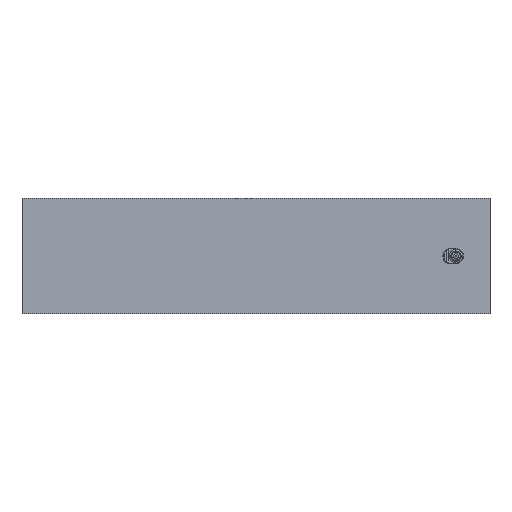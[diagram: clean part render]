
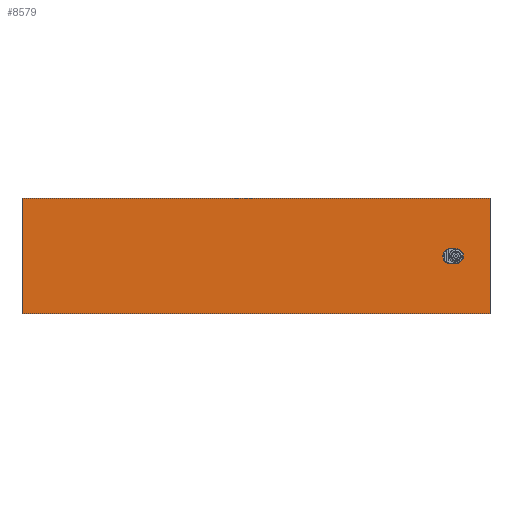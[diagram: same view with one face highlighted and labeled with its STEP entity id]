
A CAD part, top view. The second image highlights one B-rep face of the part: STEP entity #8579.
In plain terms, the highlighted planar face has unit normal (0, 0, 1).
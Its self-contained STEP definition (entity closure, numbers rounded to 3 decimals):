
#390 = VERTEX_POINT ( 'NONE', #3513 ) ;
#646 = VECTOR ( 'NONE', #4071, 1000. ) ;
#730 = ORIENTED_EDGE ( 'NONE', *, *, #6836, .F. ) ;
#1121 = EDGE_CURVE ( 'NONE', #4031, #9419, #7097, .T. ) ;
#1132 = LINE ( 'NONE', #4255, #7204 ) ;
#1312 = VERTEX_POINT ( 'NONE', #7052 ) ;
#1313 = CARTESIAN_POINT ( 'NONE',  ( 413.88, 53.603, 998.163 ) ) ;
#1474 = DIRECTION ( 'NONE',  ( 0., -1., 0. ) ) ;
#1717 = CARTESIAN_POINT ( 'NONE',  ( 397.88, 69.603, 998.163 ) ) ;
#1771 = CIRCLE ( 'NONE', #8633, 1. ) ;
#1847 = VERTEX_POINT ( 'NONE', #9689 ) ;
#2151 = EDGE_CURVE ( 'NONE', #1312, #390, #1132, .T. ) ;
#2449 = VERTEX_POINT ( 'NONE', #3068 ) ;
#2468 = CARTESIAN_POINT ( 'NONE',  ( -27.27, 192.953, 998.163 ) ) ;
#2635 = VECTOR ( 'NONE', #1474, 1000. ) ;
#2958 = VERTEX_POINT ( 'NONE', #10435 ) ;
#2992 = CARTESIAN_POINT ( 'NONE',  ( 397.88, 85.603, 998.163 ) ) ;
#3034 = CARTESIAN_POINT ( 'NONE',  ( -524.77, 69.953, 998.163 ) ) ;
#3064 = CIRCLE ( 'NONE', #4166, 16. ) ;
#3068 = CARTESIAN_POINT ( 'NONE',  ( 381.614, 85.024, 998.163 ) ) ;
#3081 = EDGE_CURVE ( 'NONE', #2449, #11362, #1771, .T. ) ;
#3202 = CARTESIAN_POINT ( 'NONE',  ( 381.88, 84.06, 998.163 ) ) ;
#3214 = CARTESIAN_POINT ( 'NONE',  ( 397.88, 53.603, 998.163 ) ) ;
#3373 = ORIENTED_EDGE ( 'NONE', *, *, #10447, .T. ) ;
#3438 = DIRECTION ( 'NONE',  ( 0., 1., 0. ) ) ;
#3458 = DIRECTION ( 'NONE',  ( -1., 0., 0. ) ) ;
#3513 = CARTESIAN_POINT ( 'NONE',  ( -524.77, -53.047, 998.163 ) ) ;
#3539 = CARTESIAN_POINT ( 'NONE',  ( 238.88, -809.397, 998.163 ) ) ;
#3590 = AXIS2_PLACEMENT_3D ( 'NONE', #1717, #10187, #12602 ) ;
#3785 = CARTESIAN_POINT ( 'NONE',  ( 470.23, 192.953, 998.163 ) ) ;
#3851 = EDGE_CURVE ( 'NONE', #6666, #13516, #11936, .T. ) ;
#3927 = EDGE_CURVE ( 'NONE', #9419, #1312, #12351, .T. ) ;
#4005 = LINE ( 'NONE', #3034, #12390 ) ;
#4031 = VERTEX_POINT ( 'NONE', #10684 ) ;
#4071 = DIRECTION ( 'NONE',  ( 1., 0., 0. ) ) ;
#4166 = AXIS2_PLACEMENT_3D ( 'NONE', #12294, #7020, #7851 ) ;
#4247 = CIRCLE ( 'NONE', #3590, 16. ) ;
#4255 = CARTESIAN_POINT ( 'NONE',  ( -27.27, -53.047, 998.163 ) ) ;
#4270 = EDGE_CURVE ( 'NONE', #390, #4031, #4005, .T. ) ;
#4315 = DIRECTION ( 'NONE',  ( 0., 1., 0. ) ) ;
#4336 = EDGE_CURVE ( 'NONE', #1847, #11162, #11573, .T. ) ;
#4800 = DIRECTION ( 'NONE',  ( 0., 1., 0. ) ) ;
#5328 = CARTESIAN_POINT ( 'NONE',  ( 380.88, 53.603, 998.163 ) ) ;
#5367 = CARTESIAN_POINT ( 'NONE',  ( 385.88, 69.603, 998.163 ) ) ;
#5373 = DIRECTION ( 'NONE',  ( -1., 0., 0. ) ) ;
#5624 = CARTESIAN_POINT ( 'NONE',  ( 380.88, 55.146, 998.163 ) ) ;
#5945 = CIRCLE ( 'NONE', #11041, 16. ) ;
#6130 = VERTEX_POINT ( 'NONE', #5624 ) ;
#6270 = ORIENTED_EDGE ( 'NONE', *, *, #13287, .T. ) ;
#6407 = DIRECTION ( 'NONE',  ( 0., -1., 0. ) ) ;
#6666 = VERTEX_POINT ( 'NONE', #3214 ) ;
#6672 = FACE_BOUND ( 'NONE', #8786, .T. ) ;
#6729 = AXIS2_PLACEMENT_3D ( 'NONE', #11273, #11133, #9039 ) ;
#6836 = EDGE_CURVE ( 'NONE', #6130, #2958, #7389, .T. ) ;
#7020 = DIRECTION ( 'NONE',  ( 0., 0., -1. ) ) ;
#7052 = CARTESIAN_POINT ( 'NONE',  ( 470.23, -53.047, 998.163 ) ) ;
#7097 = LINE ( 'NONE', #2468, #9308 ) ;
#7204 = VECTOR ( 'NONE', #5373, 1000. ) ;
#7383 = ORIENTED_EDGE ( 'NONE', *, *, #4270, .F. ) ;
#7389 = CIRCLE ( 'NONE', #6729, 1. ) ;
#7399 = ORIENTED_EDGE ( 'NONE', *, *, #13620, .T. ) ;
#7851 = DIRECTION ( 'NONE',  ( 0., 1., 0. ) ) ;
#8161 = EDGE_CURVE ( 'NONE', #6130, #11362, #8572, .T. ) ;
#8572 = LINE ( 'NONE', #5328, #11204 ) ;
#8579 = ADVANCED_FACE ( 'NONE', ( #6672, #13192 ), #13052, .T. ) ;
#8621 = ORIENTED_EDGE ( 'NONE', *, *, #2151, .F. ) ;
#8633 = AXIS2_PLACEMENT_3D ( 'NONE', #3202, #9583, #6407 ) ;
#8786 = EDGE_LOOP ( 'NONE', ( #9547, #12046, #6270, #12931, #3373, #12544, #7399, #730 ) ) ;
#8791 = DIRECTION ( 'NONE',  ( 1., 0., 0. ) ) ;
#8828 = CARTESIAN_POINT ( 'NONE',  ( 385.88, 53.603, 998.163 ) ) ;
#9039 = DIRECTION ( 'NONE',  ( 0., 1., 0. ) ) ;
#9041 = EDGE_LOOP ( 'NONE', ( #10135, #11554, #7383, #8621 ) ) ;
#9308 = VECTOR ( 'NONE', #8791, 1000. ) ;
#9419 = VERTEX_POINT ( 'NONE', #3785 ) ;
#9547 = ORIENTED_EDGE ( 'NONE', *, *, #8161, .T. ) ;
#9583 = DIRECTION ( 'NONE',  ( 0., 0., 1. ) ) ;
#9591 = DIRECTION ( 'NONE',  ( 0., 0., -1. ) ) ;
#9689 = CARTESIAN_POINT ( 'NONE',  ( 385.88, 85.603, 998.163 ) ) ;
#10077 = DIRECTION ( 'NONE',  ( 0., 0., 1. ) ) ;
#10135 = ORIENTED_EDGE ( 'NONE', *, *, #3927, .F. ) ;
#10187 = DIRECTION ( 'NONE',  ( 0., 0., -1. ) ) ;
#10336 = AXIS2_PLACEMENT_3D ( 'NONE', #3539, #10077, #4800 ) ;
#10435 = CARTESIAN_POINT ( 'NONE',  ( 381.614, 54.183, 998.163 ) ) ;
#10447 = EDGE_CURVE ( 'NONE', #11162, #6666, #4247, .T. ) ;
#10527 = CARTESIAN_POINT ( 'NONE',  ( 413.88, 85.603, 998.163 ) ) ;
#10684 = CARTESIAN_POINT ( 'NONE',  ( -524.77, 192.953, 998.163 ) ) ;
#11041 = AXIS2_PLACEMENT_3D ( 'NONE', #5367, #9591, #4315 ) ;
#11057 = CARTESIAN_POINT ( 'NONE',  ( 470.23, 69.953, 998.163 ) ) ;
#11133 = DIRECTION ( 'NONE',  ( 0., 0., 1. ) ) ;
#11162 = VERTEX_POINT ( 'NONE', #2992 ) ;
#11204 = VECTOR ( 'NONE', #3438, 1000. ) ;
#11273 = CARTESIAN_POINT ( 'NONE',  ( 381.88, 55.146, 998.163 ) ) ;
#11362 = VERTEX_POINT ( 'NONE', #11991 ) ;
#11554 = ORIENTED_EDGE ( 'NONE', *, *, #1121, .F. ) ;
#11573 = LINE ( 'NONE', #10527, #646 ) ;
#11936 = LINE ( 'NONE', #1313, #13551 ) ;
#11991 = CARTESIAN_POINT ( 'NONE',  ( 380.88, 84.06, 998.163 ) ) ;
#12046 = ORIENTED_EDGE ( 'NONE', *, *, #3081, .F. ) ;
#12294 = CARTESIAN_POINT ( 'NONE',  ( 385.88, 69.603, 998.163 ) ) ;
#12351 = LINE ( 'NONE', #11057, #2635 ) ;
#12390 = VECTOR ( 'NONE', #13664, 1000. ) ;
#12544 = ORIENTED_EDGE ( 'NONE', *, *, #3851, .T. ) ;
#12602 = DIRECTION ( 'NONE',  ( 0., 1., 0. ) ) ;
#12931 = ORIENTED_EDGE ( 'NONE', *, *, #4336, .T. ) ;
#13052 = PLANE ( 'NONE',  #10336 ) ;
#13192 = FACE_OUTER_BOUND ( 'NONE', #9041, .T. ) ;
#13287 = EDGE_CURVE ( 'NONE', #2449, #1847, #5945, .T. ) ;
#13516 = VERTEX_POINT ( 'NONE', #8828 ) ;
#13551 = VECTOR ( 'NONE', #3458, 1000. ) ;
#13620 = EDGE_CURVE ( 'NONE', #13516, #2958, #3064, .T. ) ;
#13664 = DIRECTION ( 'NONE',  ( 0., 1., 0. ) ) ;
